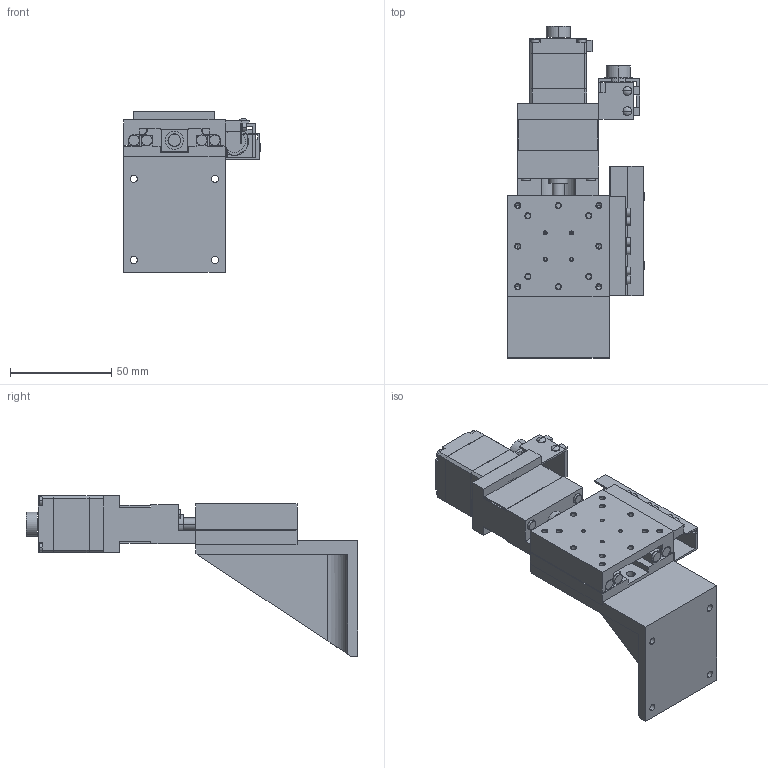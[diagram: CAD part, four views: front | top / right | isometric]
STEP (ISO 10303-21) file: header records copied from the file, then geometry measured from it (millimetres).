
FILE_DESCRIPTION(('STEP AP203'),'1');
FILE_NAME('C:/3D-Trans/3D_PZG513M-R□-T+240125.step','2024-03-14T07:48:05',(' '),(' '),'Spatial InterOp 3D',' ',' ');
FILE_SCHEMA(('CONFIG_CONTROL_DESIGN'));
Length unit declared in the file: millimetre
Products named in the file (7): 1; 2; 3; 4; 5; 6; 7
Bounding box: 67.4 x 163.5 x 79 mm (x, y, z)
Volume: 154234.1 mm3; surface area: 64147.3 mm2
Topology: 7 solids, 7 shells, 680 faces, 1760 edges, 1114 vertices
Faces by surface type: plane 384, cylinder 216, cone 76, sphere 4
Entity records: 20978 total; most frequent: DIRECTION 3676, CARTESIAN_POINT 3569, ORIENTED_EDGE 3472, EDGE_CURVE 1736, AXIS2_PLACEMENT_3D 1261, LINE 1154, VECTOR 1154, VERTEX_POINT 1114
